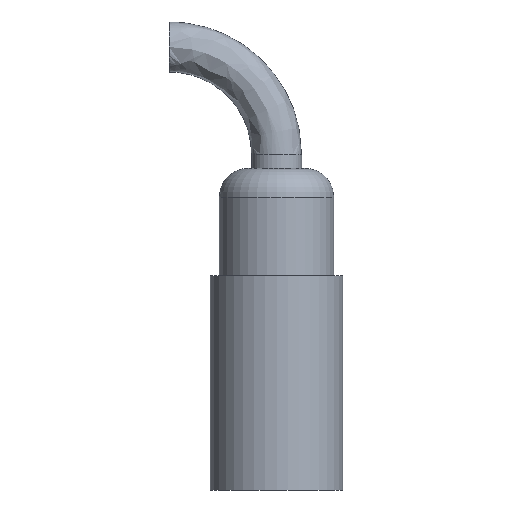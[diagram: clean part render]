
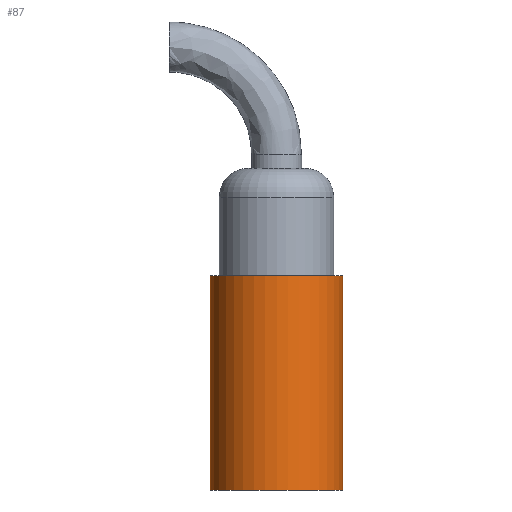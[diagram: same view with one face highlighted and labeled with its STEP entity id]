
A CAD part, front view. The second image highlights one B-rep face of the part: STEP entity #87.
In plain terms, the highlighted cylindrical face has radius 9.25 mm (diameter 18.5 mm), a partial arc.
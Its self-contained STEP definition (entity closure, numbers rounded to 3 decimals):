
#8 = VERTEX_POINT ( 'NONE', #201 ) ;
#13 = VERTEX_POINT ( 'NONE', #366 ) ;
#24 = ORIENTED_EDGE ( 'NONE', *, *, #460, .T. ) ;
#56 = VECTOR ( 'NONE', #67, 1000. ) ;
#67 = DIRECTION ( 'NONE',  ( 0., 0., -1. ) ) ;
#70 = CARTESIAN_POINT ( 'NONE',  ( -9.25, 0., 30. ) ) ;
#87 = ADVANCED_FACE ( 'NONE', ( #364 ), #474, .T. ) ;
#88 = LINE ( 'NONE', #182, #188 ) ;
#122 = DIRECTION ( 'NONE',  ( -1., 0., 0. ) ) ;
#158 = VERTEX_POINT ( 'NONE', #200 ) ;
#159 = AXIS2_PLACEMENT_3D ( 'NONE', #466, #240, #122 ) ;
#164 = EDGE_CURVE ( 'NONE', #8, #13, #342, .T. ) ;
#182 = CARTESIAN_POINT ( 'NONE',  ( 9.25, 0., 30. ) ) ;
#188 = VECTOR ( 'NONE', #472, 1000. ) ;
#197 = DIRECTION ( 'NONE',  ( 1., 0., 0. ) ) ;
#200 = CARTESIAN_POINT ( 'NONE',  ( -9.25, 0., 0. ) ) ;
#201 = CARTESIAN_POINT ( 'NONE',  ( -9.25, 0., 30. ) ) ;
#227 = DIRECTION ( 'NONE',  ( 1., 0., 0. ) ) ;
#238 = DIRECTION ( 'NONE',  ( 0., 0., 1. ) ) ;
#240 = DIRECTION ( 'NONE',  ( 0., 0., -1. ) ) ;
#284 = EDGE_CURVE ( 'NONE', #13, #488, #88, .T. ) ;
#291 = CARTESIAN_POINT ( 'NONE',  ( 0., 0., 0. ) ) ;
#342 = CIRCLE ( 'NONE', #505, 9.25 ) ;
#364 = FACE_OUTER_BOUND ( 'NONE', #593, .T. ) ;
#366 = CARTESIAN_POINT ( 'NONE',  ( 9.25, 0., 30. ) ) ;
#369 = LINE ( 'NONE', #70, #56 ) ;
#438 = CIRCLE ( 'NONE', #525, 9.25 ) ;
#460 = EDGE_CURVE ( 'NONE', #8, #158, #369, .T. ) ;
#466 = CARTESIAN_POINT ( 'NONE',  ( 0., 0., 30. ) ) ;
#467 = DIRECTION ( 'NONE',  ( 0., 0., 1. ) ) ;
#472 = DIRECTION ( 'NONE',  ( 0., 0., -1. ) ) ;
#474 = CYLINDRICAL_SURFACE ( 'NONE', #159, 9.25 ) ;
#479 = CARTESIAN_POINT ( 'NONE',  ( 0., 0., 30. ) ) ;
#488 = VERTEX_POINT ( 'NONE', #561 ) ;
#501 = ORIENTED_EDGE ( 'NONE', *, *, #284, .F. ) ;
#505 = AXIS2_PLACEMENT_3D ( 'NONE', #479, #467, #197 ) ;
#525 = AXIS2_PLACEMENT_3D ( 'NONE', #291, #238, #227 ) ;
#561 = CARTESIAN_POINT ( 'NONE',  ( 9.25, 0., 0. ) ) ;
#568 = ORIENTED_EDGE ( 'NONE', *, *, #581, .T. ) ;
#581 = EDGE_CURVE ( 'NONE', #158, #488, #438, .T. ) ;
#582 = ORIENTED_EDGE ( 'NONE', *, *, #164, .F. ) ;
#593 = EDGE_LOOP ( 'NONE', ( #501, #582, #24, #568 ) ) ;
